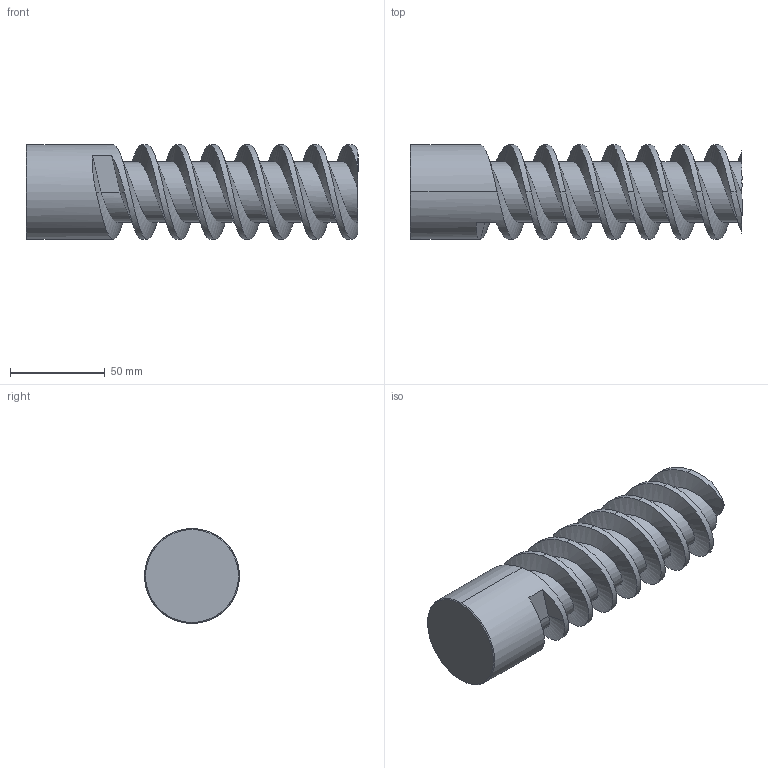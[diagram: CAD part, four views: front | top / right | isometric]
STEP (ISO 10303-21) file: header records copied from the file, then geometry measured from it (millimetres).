
FILE_DESCRIPTION (( 'STEP AP214' ), '1' );
FILE_NAME ('E2122_50_175.STEP', '2013-04-10T07:13:15', ( '' ), ( '' ), 'SwSTEP 2.0', 'SolidWorks 2013', '' );
FILE_SCHEMA (( 'AUTOMOTIVE_DESIGN' ));
Length unit declared in the file: millimetre
Products named in the file (1): E2122_50_175
Bounding box: 175 x 50 x 50 mm (x, y, z)
Volume: 233349.4 mm3; surface area: 39237.5 mm2
Topology: 1 solids, 1 shells, 32 faces, 84 edges, 54 vertices
Faces by surface type: cylinder 16, plane 8, bspline 6, cone 2
Entity records: 7392 total; most frequent: CARTESIAN_POINT 6373, ORIENTED_EDGE 168, DIRECTION 96, EDGE_CURVE 84, VERTEX_POINT 54, UNCERTAINTY_MEASURE_WITH_UNIT 35, COLOUR_RGB 34, SURFACE_STYLE_FILL_AREA 34
